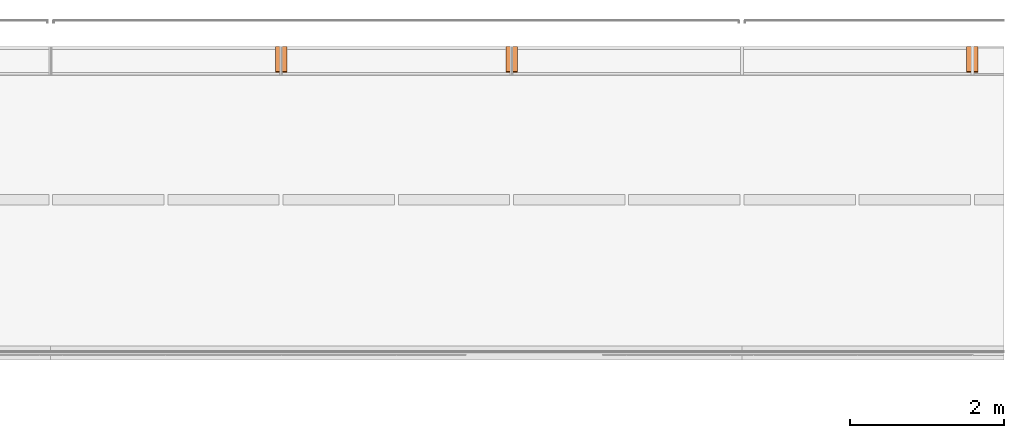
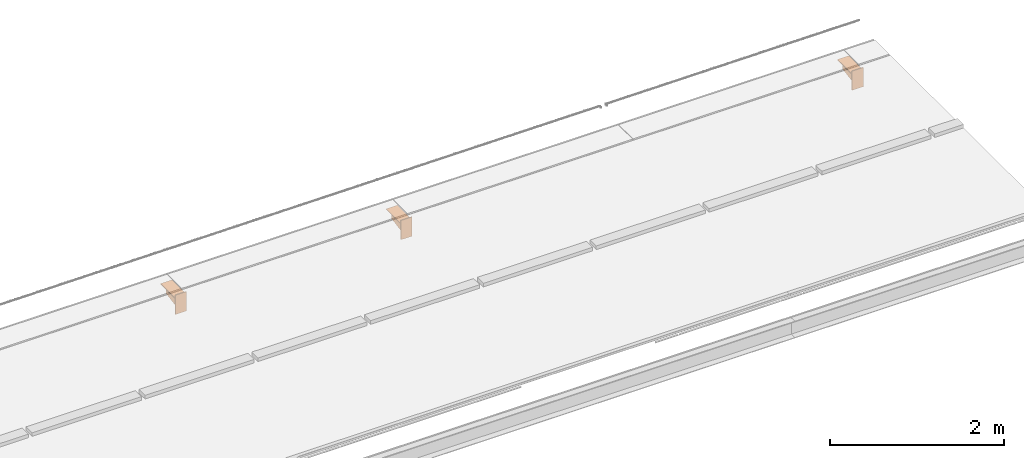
# One storey, part 3 of 3: 3 proxies.
"""IFC2X3 building model written with IfcOpenShell, lengths in millimetres."""

from ifc_helpers import new_model, entity, si_unit, converted_unit, derived_unit, direction, frame, origin, origin_with_axes, place, context, subcontext, project, spatial, polyline, outline, extrude, source, transform, mapped, material, type_object, element, save


model = new_model("IFC2X3")

# Units and contexts
model_context = context("Model", 3, precision=0.01, world=frame((0.0, 4.29681676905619e-09, 0.0)), true_north=direction((4.01073788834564e-13, 1.0)))
plan_context = context("Plan", 3, precision=0.01, world=frame((0.0, 4.29681676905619e-09, 0.0)), true_north=direction((4.01073788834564e-13, 1.0)))
body_context = subcontext(model_context, "Body", "Model", "MODEL_VIEW")
ifc_project = project(units=[converted_unit("PLANEANGLEUNIT", "DEGREE", entity("IfcPositiveLengthMeasure", 0.0174532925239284), si_unit("PLANEANGLEUNIT", "RADIAN"), dimensions=[0, 0, 0, 0, 0, 0, 0]), si_unit("AREAUNIT", "SQUARE_METRE"), si_unit("LENGTHUNIT", "METRE", prefix="MILLI"), si_unit("MASSUNIT", "GRAM", prefix="KILO"), si_unit("POWERUNIT", "WATT"), si_unit("PRESSUREUNIT", "PASCAL"), si_unit("FORCEUNIT", "NEWTON", prefix="KILO"), si_unit("ELECTRICVOLTAGEUNIT", "VOLT"), si_unit("ELECTRICCURRENTUNIT", "AMPERE"), si_unit("THERMODYNAMICTEMPERATUREUNIT", "DEGREE_CELSIUS"), si_unit("TIMEUNIT", "SECOND"), si_unit("VOLUMEUNIT", "CUBIC_METRE"), derived_unit("LINEARVELOCITYUNIT", [(si_unit("LENGTHUNIT", "METRE"), 1), (si_unit("TIMEUNIT", "SECOND"), -1)]), derived_unit("VOLUMETRICFLOWRATEUNIT", [(si_unit("VOLUMEUNIT", "CUBIC_METRE"), 1), (si_unit("TIMEUNIT", "SECOND"), -1)]), derived_unit("THERMALTRANSMITTANCEUNIT", [(si_unit("POWERUNIT", "WATT"), 1), (si_unit("THERMODYNAMICTEMPERATUREUNIT", "KELVIN"), -1), (si_unit("AREAUNIT", "SQUARE_METRE"), -1)]), derived_unit("SOUNDPRESSUREUNIT", [(si_unit("PRESSUREUNIT", "PASCAL"), 1)])], contexts=[model_context, plan_context])

# Site, building, storey
site_placement = place(None, origin_with_axes())
site = spatial("IfcSite", under=ifc_project, at=site_placement, Name="ENGM", CompositionType="ELEMENT")
building_placement = place(site_placement, origin_with_axes())
building = spatial("IfcBuilding", under=site, at=building_placement, Name="TH", CompositionType="ELEMENT")
storey_placement = place(building_placement, frame((0.0, 0.0, 213700.0), z_axis=(0.0, 0.0, 1.0), x_axis=(1.0, 0.0, 0.0)))
storey = spatial("IfcBuildingStorey", under=building, at=storey_placement, Name="Nivå G - 2,0 m", CompositionType="ELEMENT", Elevation=213700.0)

# Proxies
ifc_material = material(Name="_NSW Stål")
building_element_proxy_type = type_object("IfcBuildingElementProxyType", Name="B220 - konsoll eksyst pir Vest:B220 - Konsoll eksyst. pir Vest", PredefinedType="NOTDEFINED", material=ifc_material)
shared_shape = source(origin(), body_context, "Body", "SweptSolid", [
    extrude(outline(polyline([(-89.9993396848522, -165.011181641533), (119.997144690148, -165.011181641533), (60.0015346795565, 165.011181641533), (-89.9993396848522, 165.011181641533), (-89.9993396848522, -165.011181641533)])), frame((-5.02294921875, 174.982666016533, -89.9993396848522), z_axis=(1.0, 0.0, 0.0), x_axis=(0.0, 0.0, -1.0)), (0.0, 0.0, 1.0), 10.0086914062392),
    extrude(outline(polyline([(-89.9991577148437, -89.985205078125), (179.993664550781, -89.985205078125), (179.993664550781, -80.013720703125), (-39.9929077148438, -80.013720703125), (-39.9929077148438, 250.012646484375), (-50.0015991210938, 250.012646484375), (-50.0015991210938, -80.013720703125), (-89.9991577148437, -80.013720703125), (-89.9991577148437, -89.985205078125)])), frame((-75.009375, 89.985205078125, -39.9929077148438), z_axis=(1.0, 0.0, 0.0), x_axis=(0.0, 0.0, -1.0)), (0.0, 0.0, 1.0), 150.018749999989),
])
for number, where, z_axis, x_axis, name in (
    (1, (904000.000000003, 484480.009277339, -129.873291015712), (0.0, 0.0, 1.0), (1.0, 0.0, 0.0), "B220 - konsoll eksyst pir Vest:B220 - Konsoll eksyst. pir Vest"),
    (2, (901000.000000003, 484480.009277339, -129.873291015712), (0.0, 0.0, 1.0), (1.0, 0.0, 0.0), "B220 - konsoll eksyst pir Vest:B220 - Konsoll eksyst. pir Vest"),
    (3, (910000.000000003, 484480.009277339, -129.873291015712), (0.0, 0.0, 1.0), (1.0, 0.0, 0.0), "B220 - konsoll eksyst pir Vest:B220 - Konsoll eksyst. pir Vest"),
):
    element("IfcBuildingElementProxy", number, at=place(storey_placement, frame(where, z_axis=z_axis, x_axis=x_axis)), inside=storey, type_object=building_element_proxy_type, material=ifc_material, Name=name, ObjectType="B220 - konsoll eksyst pir Vest:B220 - Konsoll eksyst. pir Vest", context=body_context, shape_type="MappedRepresentation", body=[
        mapped(shared_shape, transform((0.0, 0.0, 0.0), scale=1.0)),
    ])

save(model, "model.ifc")
